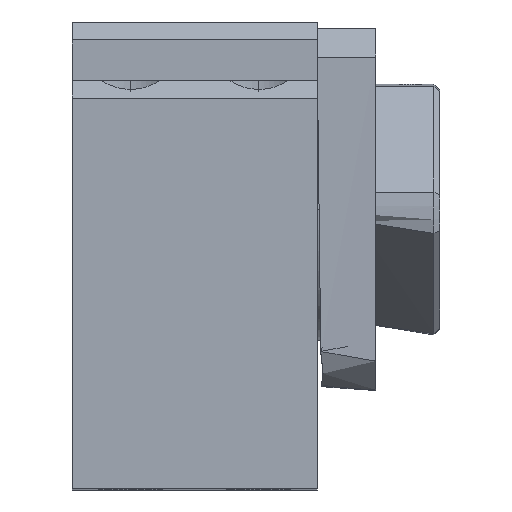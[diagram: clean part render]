
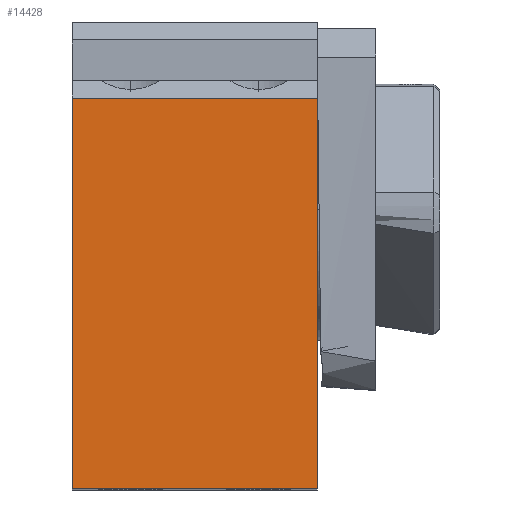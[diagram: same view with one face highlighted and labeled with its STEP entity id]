
A CAD part, top view. The second image highlights one B-rep face of the part: STEP entity #14428.
In plain terms, the highlighted planar face has unit normal (0, 0, -1).
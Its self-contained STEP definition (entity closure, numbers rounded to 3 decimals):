
#95 = CARTESIAN_POINT ( 'NONE',  ( -16.702, 5.674, 53. ) ) ;
#980 = ORIENTED_EDGE ( 'NONE', *, *, #14835, .T. ) ;
#1183 = CARTESIAN_POINT ( 'NONE',  ( -16.702, 50.341, 53. ) ) ;
#1552 = ORIENTED_EDGE ( 'NONE', *, *, #8461, .T. ) ;
#2535 = CARTESIAN_POINT ( 'NONE',  ( -16.702, -16.659, 53. ) ) ;
#3273 = ORIENTED_EDGE ( 'NONE', *, *, #13160, .T. ) ;
#3758 = VERTEX_POINT ( 'NONE', #16741 ) ;
#4027 = FACE_OUTER_BOUND ( 'NONE', #5765, .T. ) ;
#4311 = EDGE_CURVE ( 'NONE', #16933, #6356, #10820, .T. ) ;
#5338 = CARTESIAN_POINT ( 'NONE',  ( -44.702, -16.659, 53. ) ) ;
#5649 = DIRECTION ( 'NONE',  ( 0., -1., 0. ) ) ;
#5698 = AXIS2_PLACEMENT_3D ( 'NONE', #11467, #10270, #5649 ) ;
#5765 = EDGE_LOOP ( 'NONE', ( #5877, #980, #3273, #1552 ) ) ;
#5877 = ORIENTED_EDGE ( 'NONE', *, *, #4311, .F. ) ;
#5998 = CARTESIAN_POINT ( 'NONE',  ( -16.702, 50.341, 53. ) ) ;
#6356 = VERTEX_POINT ( 'NONE', #2535 ) ;
#6708 = CARTESIAN_POINT ( 'NONE',  ( -58.702, 5.674, 53. ) ) ;
#7005 = VERTEX_POINT ( 'NONE', #17240 ) ;
#7344 = B_SPLINE_CURVE_WITH_KNOTS ( 'NONE', 3,
 ( #5998, #10814, #95, #18451 ),
 .UNSPECIFIED., .F., .F.,
 ( 4, 4 ),
 ( 0., 1. ),
 .UNSPECIFIED. ) ;
#8461 = EDGE_CURVE ( 'NONE', #7005, #6356, #7344, .T. ) ;
#8520 = CARTESIAN_POINT ( 'NONE',  ( -58.702, -16.659, 53. ) ) ;
#8616 = CARTESIAN_POINT ( 'NONE',  ( -30.702, 50.341, 53. ) ) ;
#10114 = CARTESIAN_POINT ( 'NONE',  ( -58.702, 28.007, 53. ) ) ;
#10164 = PLANE ( 'NONE',  #5698 ) ;
#10270 = DIRECTION ( 'NONE',  ( 0., 0., -1. ) ) ;
#10814 = CARTESIAN_POINT ( 'NONE',  ( -16.702, 28.007, 53. ) ) ;
#10820 = B_SPLINE_CURVE_WITH_KNOTS ( 'NONE', 3,
 ( #17688, #5338, #11167, #14562 ),
 .UNSPECIFIED., .F., .F.,
 ( 4, 4 ),
 ( 0., 1. ),
 .UNSPECIFIED. ) ;
#11167 = CARTESIAN_POINT ( 'NONE',  ( -30.702, -16.659, 53. ) ) ;
#11230 = B_SPLINE_CURVE_WITH_KNOTS ( 'NONE', 3,
 ( #11804, #16240, #8616, #1183 ),
 .UNSPECIFIED., .F., .F.,
 ( 4, 4 ),
 ( 0., 1. ),
 .UNSPECIFIED. ) ;
#11467 = CARTESIAN_POINT ( 'NONE',  ( -58.702, -16.659, 53. ) ) ;
#11804 = CARTESIAN_POINT ( 'NONE',  ( -58.702, 50.341, 53. ) ) ;
#12992 = CARTESIAN_POINT ( 'NONE',  ( -58.702, -16.659, 53. ) ) ;
#13160 = EDGE_CURVE ( 'NONE', #3758, #7005, #11230, .T. ) ;
#14428 = ADVANCED_FACE ( 'NONE', ( #4027 ), #10164, .T. ) ;
#14562 = CARTESIAN_POINT ( 'NONE',  ( -16.702, -16.659, 53. ) ) ;
#14620 = CARTESIAN_POINT ( 'NONE',  ( -58.702, 50.341, 53. ) ) ;
#14835 = EDGE_CURVE ( 'NONE', #16933, #3758, #16220, .T. ) ;
#16220 = B_SPLINE_CURVE_WITH_KNOTS ( 'NONE', 3,
 ( #8520, #6708, #10114, #14620 ),
 .UNSPECIFIED., .F., .F.,
 ( 4, 4 ),
 ( 0., 1. ),
 .UNSPECIFIED. ) ;
#16240 = CARTESIAN_POINT ( 'NONE',  ( -44.702, 50.341, 53. ) ) ;
#16741 = CARTESIAN_POINT ( 'NONE',  ( -58.702, 50.341, 53. ) ) ;
#16933 = VERTEX_POINT ( 'NONE', #12992 ) ;
#17240 = CARTESIAN_POINT ( 'NONE',  ( -16.702, 50.341, 53. ) ) ;
#17688 = CARTESIAN_POINT ( 'NONE',  ( -58.702, -16.659, 53. ) ) ;
#18451 = CARTESIAN_POINT ( 'NONE',  ( -16.702, -16.659, 53. ) ) ;
